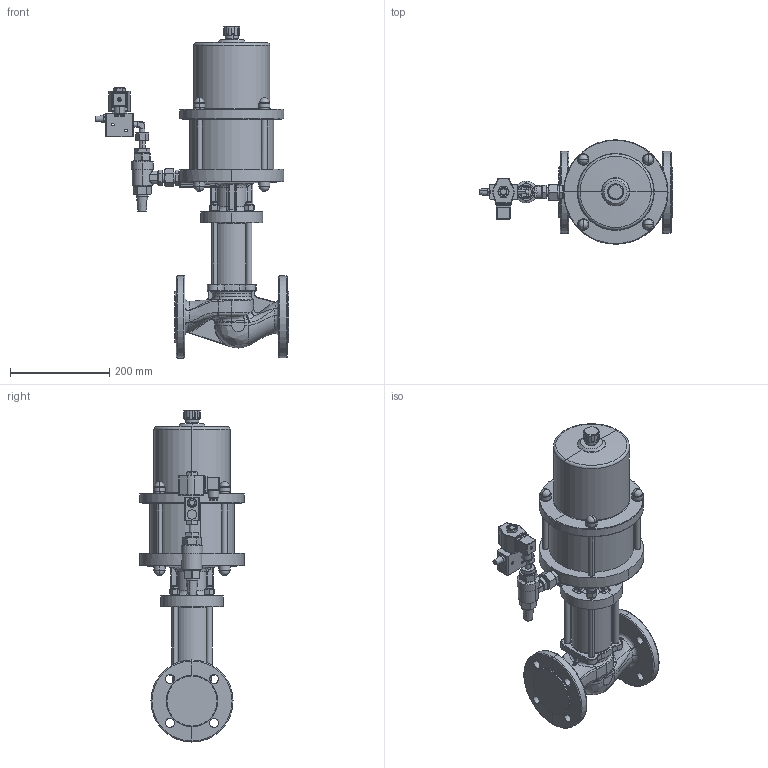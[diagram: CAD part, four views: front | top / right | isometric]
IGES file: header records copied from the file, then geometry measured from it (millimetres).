
Global section: file name: No Iges File Name specified; native system: AutoDesk Inventor R12.0; preprocessor: AutoDesk Inventor Iges Exporter R12.0; date: 20101115.145611; units: millimetre
Bounding box: 389.8 x 210 x 667.85 mm (x, y, z)
Volume: 9757223.2 mm3; surface area: 591168.2 mm2
Topology: 1 solids, 1 shells, 1314 faces, 3264 edges, 1981 vertices
Faces by surface type: plane 394, bspline 323, cylinder 243, cone 157, revolution 111, torus 53, sphere 33
